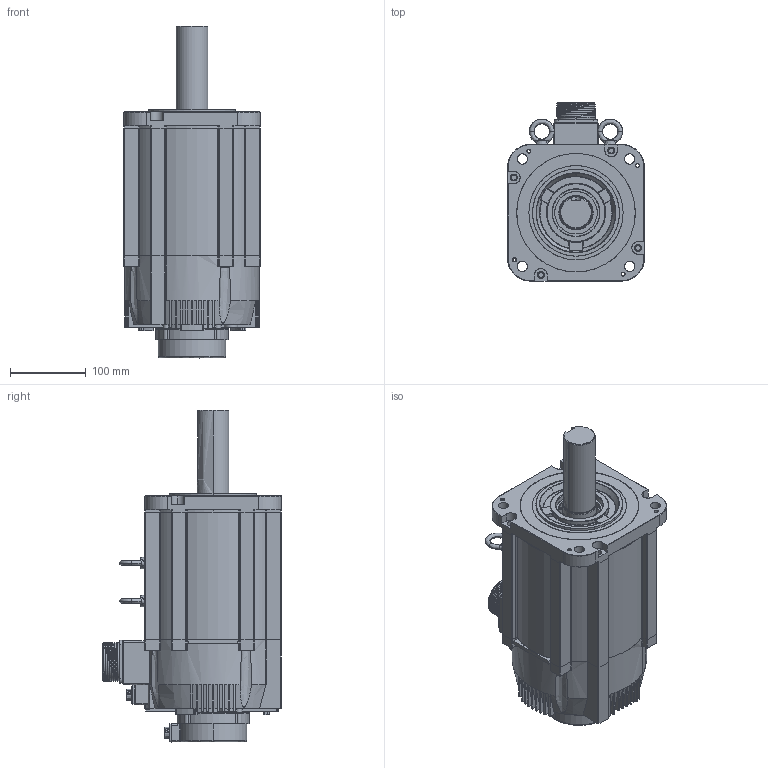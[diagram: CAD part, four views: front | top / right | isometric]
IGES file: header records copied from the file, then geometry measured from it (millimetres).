
Start section: SolidWorks IGES file using analytic representation for surfaces
Global section: file name: C:\Users\11755\Desktop\騰禾380V\外型圖\SMP系列_馬達外型圖(客戶版)\3D-IGES\SMP-H750B.IGS; native system: SolidWorks 2016; preprocessor: SolidWorks 2016; author: 11755; date: 210504.135846; units: millimetre
Bounding box: 180 x 235.3 x 437 mm (x, y, z)
Surface area: 442559.8 mm2 (no closed solid volume)
Topology: 0 solids, 0 shells, 1018 faces, 14381 edges, 14363 vertices
Faces by surface type: revolution 533, bspline 485
